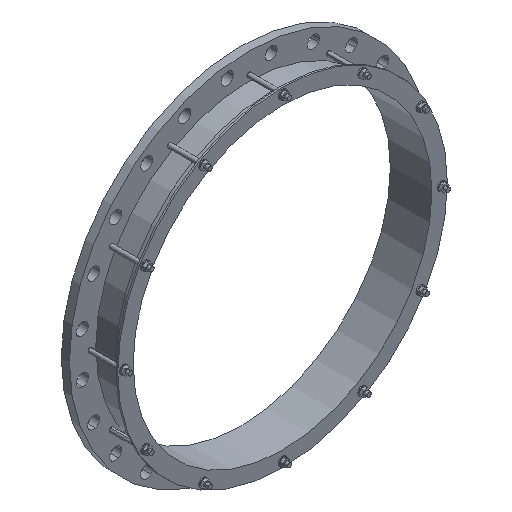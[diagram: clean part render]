
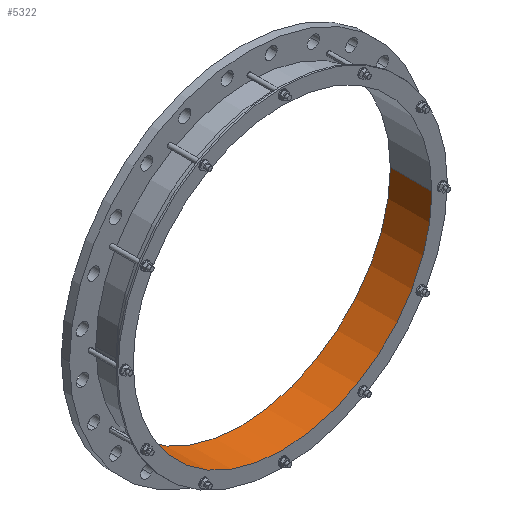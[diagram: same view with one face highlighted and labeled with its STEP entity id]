
A CAD part, isometric view. The second image highlights one B-rep face of the part: STEP entity #5322.
In plain terms, the highlighted cylindrical face has radius 422 mm (diameter 844 mm), a partial arc.
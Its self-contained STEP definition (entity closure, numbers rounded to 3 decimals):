
#7=CARTESIAN_POINT('',(0.,23.,0.));
#8=DIRECTION('',(0.,1.,0.));
#9=DIRECTION('',(1.,0.,0.));
#10=AXIS2_PLACEMENT_3D('',#7,#8,#9);
#1440=CARTESIAN_POINT('',(0.,-94.452,0.));
#1441=DIRECTION('',(0.,1.,0.));
#1442=DIRECTION('',(1.,0.,0.));
#1443=AXIS2_PLACEMENT_3D('',#1440,#1441,#1442);
#1445=DIRECTION('',(0.,1.,0.));
#1446=VECTOR('',#1445,117.452);
#1447=CARTESIAN_POINT('',(422.,-94.452,0.));
#1448=LINE('',#1447,#1446);
#1449=DIRECTION('',(0.,1.,0.));
#1450=VECTOR('',#1449,117.452);
#1451=CARTESIAN_POINT('',(-422.,-94.452,0.));
#1452=LINE('',#1451,#1450);
#3594=CARTESIAN_POINT('',(422.,-94.452,0.));
#3595=CARTESIAN_POINT('',(422.,23.,0.));
#3596=VERTEX_POINT('',#3594);
#3597=VERTEX_POINT('',#3595);
#3606=CARTESIAN_POINT('',(-422.,-94.452,0.));
#3607=CARTESIAN_POINT('',(-422.,23.,0.));
#3608=VERTEX_POINT('',#3606);
#3609=VERTEX_POINT('',#3607);
#5309=CARTESIAN_POINT('',(0.,-100.325,0.));
#5310=DIRECTION('',(0.,1.,0.));
#5311=DIRECTION('',(-1.,0.,0.));
#5312=AXIS2_PLACEMENT_3D('',#5309,#5310,#5311);
#5313=CYLINDRICAL_SURFACE('',#5312,422.);
#5315=ORIENTED_EDGE('',*,*,#5314,.F.);
#5316=ORIENTED_EDGE('',*,*,#5232,.T.);
#5318=ORIENTED_EDGE('',*,*,#5317,.T.);
#5319=ORIENTED_EDGE('',*,*,#4435,.F.);
#5320=EDGE_LOOP('',(#5315,#5316,#5318,#5319));
#5321=FACE_OUTER_BOUND('',#5320,.F.);
#5322=ADVANCED_FACE('',(#5321),#5313,.F.);
#11=CIRCLE('',#10,422.);
#1444=CIRCLE('',#1443,422.);
#4435=EDGE_CURVE('',#3597,#3609,#11,.T.);
#5232=EDGE_CURVE('',#3596,#3608,#1444,.T.);
#5314=EDGE_CURVE('',#3596,#3597,#1448,.T.);
#5317=EDGE_CURVE('',#3608,#3609,#1452,.T.);
